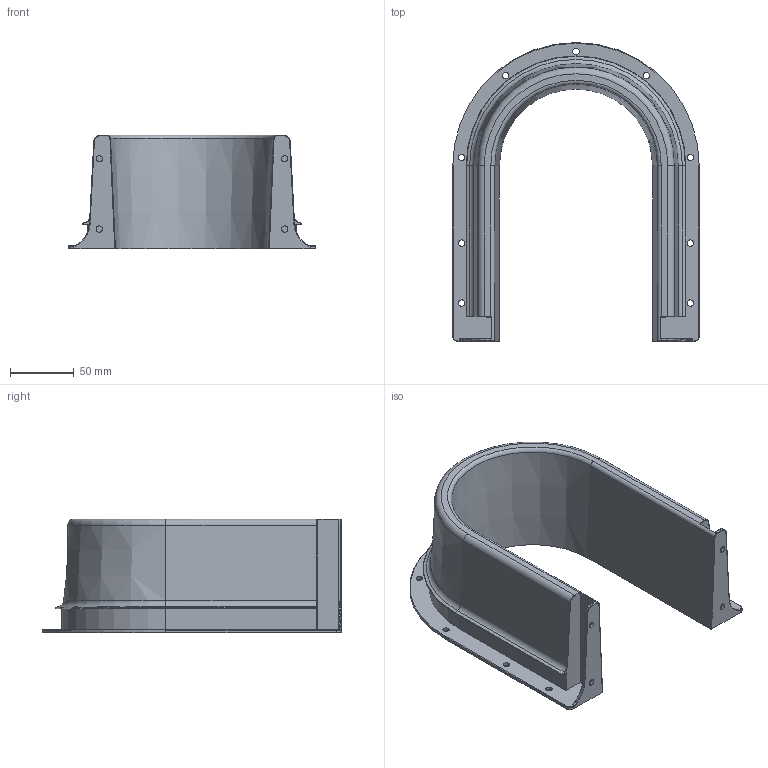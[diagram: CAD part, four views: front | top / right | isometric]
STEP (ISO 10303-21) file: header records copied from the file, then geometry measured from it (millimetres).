
FILE_DESCRIPTION (( 'STEP AP203' ), '1' );
FILE_NAME ('M0103M.STEP', '2020-08-14T08:14:48', ( 'Users' ), ( 'Microsoft' ), 'SwSTEP 2.0', 'SolidWorks 2018', '' );
FILE_SCHEMA (( 'CONFIG_CONTROL_DESIGN' ));
Length unit declared in the file: millimetre
Products named in the file (1): M0103M
Bounding box: 193 x 234 x 89 mm (x, y, z)
Volume: 745562.2 mm3; surface area: 132181.8 mm2
Topology: 1 solids, 1 shells, 131 faces, 337 edges, 208 vertices
Faces by surface type: cylinder 67, plane 30, bspline 18, torus 13, cone 3
Entity records: 4425 total; most frequent: CARTESIAN_POINT 1276, ORIENTED_EDGE 674, DIRECTION 623, EDGE_CURVE 337, AXIS2_PLACEMENT_3D 239, VERTEX_POINT 208, EDGE_LOOP 157, LINE 145
